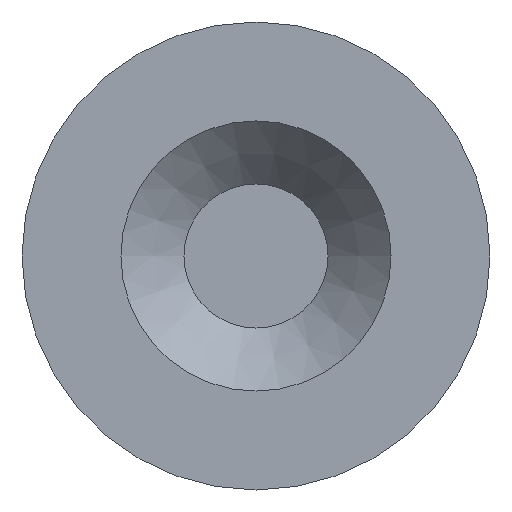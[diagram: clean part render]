
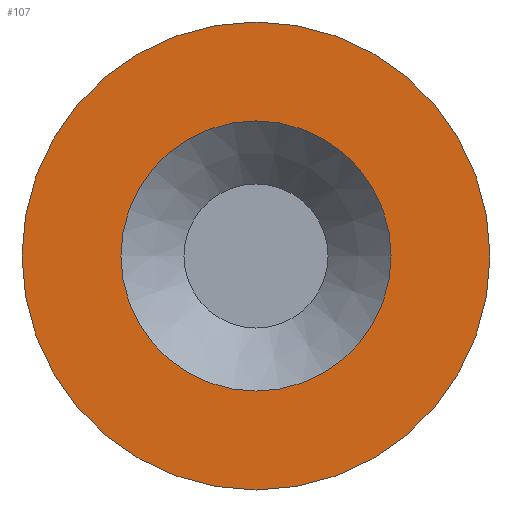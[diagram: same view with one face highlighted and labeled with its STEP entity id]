
A CAD part, left-side view. The second image highlights one B-rep face of the part: STEP entity #107.
In plain terms, the highlighted planar face has unit normal (-1, 0, 0).
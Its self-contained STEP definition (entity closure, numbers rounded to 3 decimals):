
#19=FACE_BOUND($,#42,.T.);
#30=FACE_OUTER_BOUND($,#41,.T.);
#41=EDGE_LOOP($,(#86));
#42=EDGE_LOOP($,(#87));
#56=CIRCLE($,#122,1.143);
#57=CIRCLE($,#124,1.98);
#65=VERTEX_POINT($,#184);
#66=VERTEX_POINT($,#187);
#74=EDGE_CURVE($,#65,#65,#56,.T.);
#75=EDGE_CURVE($,#66,#66,#57,.T.);
#86=ORIENTED_EDGE($,*,*,#75,.F.);
#87=ORIENTED_EDGE($,*,*,#74,.T.);
#100=PLANE($,#123);
#107=ADVANCED_FACE($,(#30,#19),#100,.T.);
#122=AXIS2_PLACEMENT_3D($,#185,#148,#149);
#123=AXIS2_PLACEMENT_3D($,#186,#150,#151);
#124=AXIS2_PLACEMENT_3D($,#188,#152,#153);
#148=DIRECTION('center_axis',(1.,0.,0.));
#149=DIRECTION('ref_axis',(0.,1.,0.));
#150=DIRECTION('center_axis',(-1.,0.,0.));
#151=DIRECTION('ref_axis',(0.,0.,1.));
#152=DIRECTION('center_axis',(1.,0.,0.));
#153=DIRECTION('ref_axis',(0.,1.,0.));
#184=CARTESIAN_POINT('',(3.175,1.143,0.));
#185=CARTESIAN_POINT('Origin',(3.175,0.,0.));
#186=CARTESIAN_POINT('Origin',(3.175,1.562,0.));
#187=CARTESIAN_POINT('',(3.175,1.98,0.));
#188=CARTESIAN_POINT('Origin',(3.175,0.,0.));
